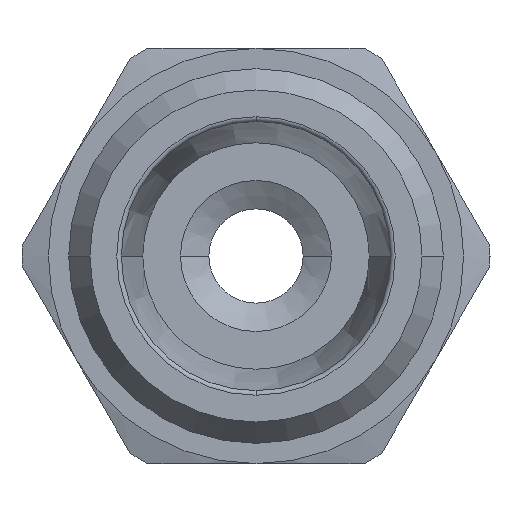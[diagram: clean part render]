
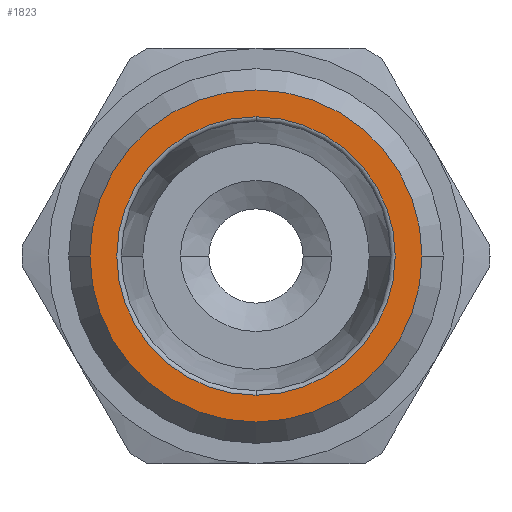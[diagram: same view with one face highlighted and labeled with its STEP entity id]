
A CAD part, left-side view. The second image highlights one B-rep face of the part: STEP entity #1823.
In plain terms, the highlighted planar face has unit normal (-1, 0, 0) as drawn and (0, 0, 1) by its records, which use the part's own axes.
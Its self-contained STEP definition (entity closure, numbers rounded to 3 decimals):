
#950=CARTESIAN_POINT('',(0.,-8.8,17.0));
#951=VERTEX_POINT('',#950);
#958=CARTESIAN_POINT('',(0.,8.8,17.));
#959=VERTEX_POINT('',#958);
#960=CARTESIAN_POINT('',(0.,0.,17.));
#961=DIRECTION('',(0.0,0.0,-1.0));
#962=DIRECTION('',(0.0,-1.0,0.0));
#963=AXIS2_PLACEMENT_3D('',#960,#961,#962);
#964=CIRCLE('',#963,8.8);
#965=EDGE_CURVE('',#951,#959,#964,.T.);
#1023=CARTESIAN_POINT('',(7.377,0.,17.0));
#1024=VERTEX_POINT('',#1023);
#1042=CARTESIAN_POINT('',(-7.377,0.,17.0));
#1043=VERTEX_POINT('',#1042);
#1051=CARTESIAN_POINT('',(0.,-7.377,17.0));
#1052=VERTEX_POINT('',#1051);
#1053=CARTESIAN_POINT('',(0.,0.,17.0));
#1054=DIRECTION('',(0.0,0.0,1.0));
#1055=DIRECTION('',(0.0,1.0,0.0));
#1056=AXIS2_PLACEMENT_3D('',#1053,#1054,#1055);
#1057=CIRCLE('',#1056,7.377);
#1058=EDGE_CURVE('',#1043,#1052,#1057,.T.);
#1060=CARTESIAN_POINT('',(0.,0.,17.0));
#1061=DIRECTION('',(0.0,0.0,1.0));
#1062=DIRECTION('',(0.0,1.0,0.0));
#1063=AXIS2_PLACEMENT_3D('',#1060,#1061,#1062);
#1064=CIRCLE('',#1063,7.377);
#1065=EDGE_CURVE('',#1052,#1024,#1064,.T.);
#1784=CARTESIAN_POINT('',(0.,0.,17.0));
#1785=DIRECTION('',(0.0,0.0,1.0));
#1786=DIRECTION('',(0.0,1.0,0.0));
#1787=AXIS2_PLACEMENT_3D('',#1784,#1785,#1786);
#1788=CIRCLE('',#1787,7.377);
#1789=EDGE_CURVE('',#1024,#1043,#1788,.T.);
#1803=CARTESIAN_POINT('',(0.,-7.988,17.0));
#1804=DIRECTION('',(0.0,0.0,1.0));
#1805=DIRECTION('',(-1.0,0.0,0.0));
#1806=AXIS2_PLACEMENT_3D('',#1803,#1804,#1805);
#1807=PLANE('',#1806);
#1808=ORIENTED_EDGE('',*,*,#965,.F.);
#1809=CARTESIAN_POINT('',(0.,0.,17.));
#1810=DIRECTION('',(0.0,0.0,-1.0));
#1811=DIRECTION('',(0.0,-1.0,0.0));
#1812=AXIS2_PLACEMENT_3D('',#1809,#1810,#1811);
#1813=CIRCLE('',#1812,8.8);
#1814=EDGE_CURVE('',#959,#951,#1813,.T.);
#1815=ORIENTED_EDGE('',*,*,#1814,.F.);
#1816=EDGE_LOOP('',(#1808,#1815));
#1817=FACE_OUTER_BOUND('',#1816,.T.);
#1818=ORIENTED_EDGE('',*,*,#1065,.F.);
#1819=ORIENTED_EDGE('',*,*,#1058,.F.);
#1820=ORIENTED_EDGE('',*,*,#1789,.F.);
#1821=EDGE_LOOP('',(#1818,#1819,#1820));
#1822=FACE_BOUND('',#1821,.T.);
#1823=ADVANCED_FACE('',(#1817,#1822),#1807,.T.);
